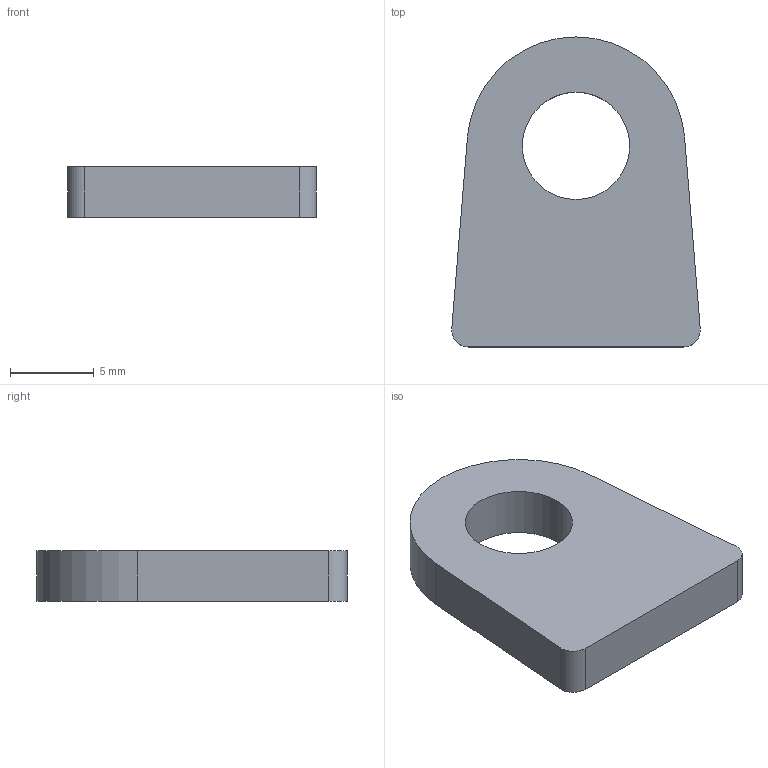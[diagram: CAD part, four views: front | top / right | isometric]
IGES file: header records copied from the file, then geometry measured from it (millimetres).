
Start section: START RECORD GO HERE.
Global section: file name: 20M_MS_01011 (Chapes baquet arriere).igs; native system: IBM CATIA IGES - CATIA Version 5 Release 19 ; preprocessor: CATIA Version 5 Release 19 ; author: mik75; organization: LAPTOP-SUH344G9; date: 20200115.174400; units: millimetre
Bounding box: 14.82 x 18.5 x 3 mm (x, y, z)
Surface area: 639.6 mm2 (no closed solid volume)
Topology: 0 solids, 0 shells, 10 faces, 48 edges, 48 vertices
Faces by surface type: revolution 5, plane 5
